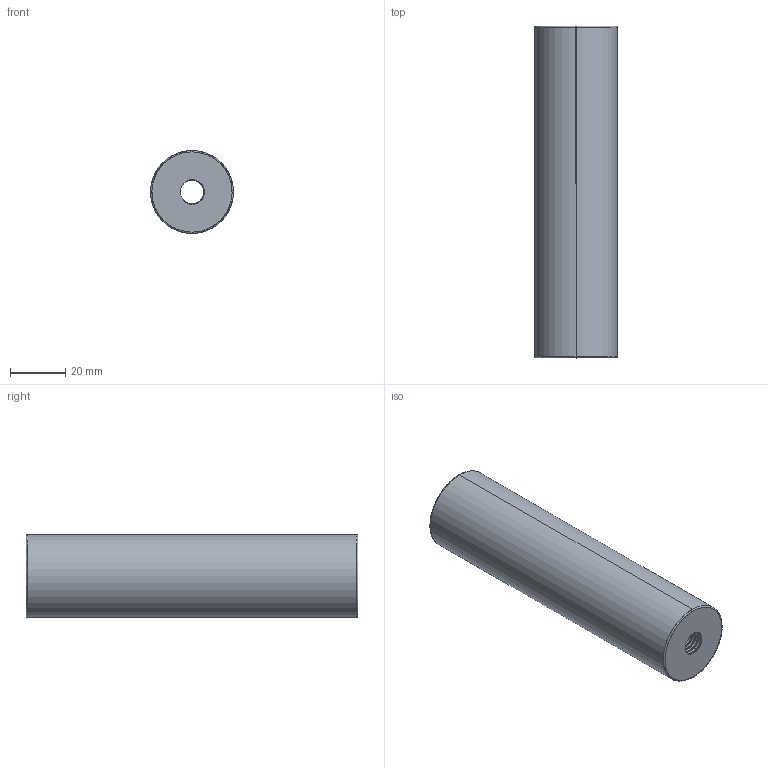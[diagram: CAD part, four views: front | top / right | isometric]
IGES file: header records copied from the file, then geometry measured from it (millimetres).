
Start section: SolidWorks IGES file using analytic representation for surfaces
Global section: file name: D:\Belgelerim\solid çalýþmalarým\D40 VÝDA KANALI AÇILACAK\ÝGS\D40_30X120.IGS; native system: SolidWorks 2008; preprocessor: SolidWorks 2008; author: kalite-mail; date: 080708.170042; units: millimetre
Bounding box: 30 x 120 x 30 mm (x, y, z)
Surface area: 21295.8 mm2 (no closed solid volume)
Topology: 0 solids, 0 shells, 60 faces, 1490 edges, 1490 vertices
Faces by surface type: revolution 45, bspline 15
